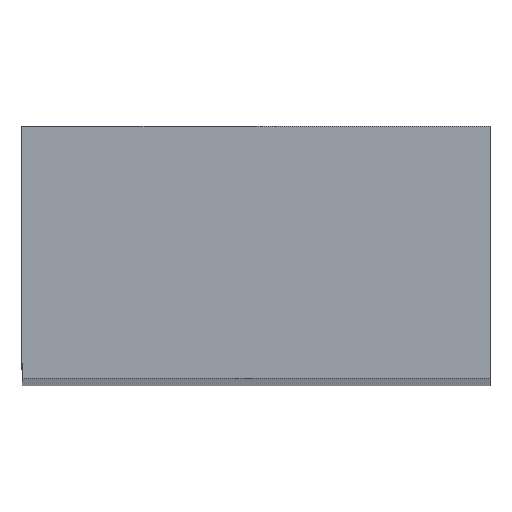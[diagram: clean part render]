
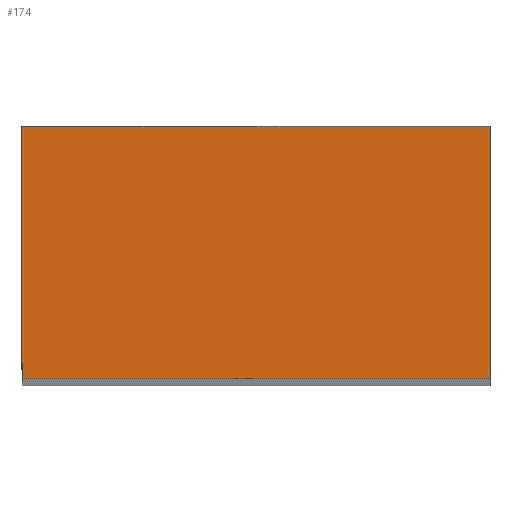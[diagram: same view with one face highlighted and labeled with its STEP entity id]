
A CAD part, top view. The second image highlights one B-rep face of the part: STEP entity #174.
In plain terms, the highlighted planar face has unit normal (0, 0, 1).
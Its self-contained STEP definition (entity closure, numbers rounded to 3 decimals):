
#7 = ORIENTED_EDGE ( 'NONE', *, *, #56, .T. ) ;
#9 = DIRECTION ( 'NONE',  ( 1., 0., 0. ) ) ;
#13 = DIRECTION ( 'NONE',  ( 0., 0., 1. ) ) ;
#23 = FACE_OUTER_BOUND ( 'NONE', #199, .T. ) ;
#24 = AXIS2_PLACEMENT_3D ( 'NONE', #197, #13, #9 ) ;
#42 = DIRECTION ( 'NONE',  ( 0., 1., 0. ) ) ;
#48 = CARTESIAN_POINT ( 'NONE',  ( -13., 7., 0. ) ) ;
#56 = EDGE_CURVE ( 'NONE', #85, #177, #73, .T. ) ;
#61 = LINE ( 'NONE', #62, #90 ) ;
#62 = CARTESIAN_POINT ( 'NONE',  ( -13., 7., 0. ) ) ;
#67 = DIRECTION ( 'NONE',  ( -1., 0., 0. ) ) ;
#73 = LINE ( 'NONE', #112, #110 ) ;
#85 = VERTEX_POINT ( 'NONE', #185 ) ;
#88 = VERTEX_POINT ( 'NONE', #186 ) ;
#90 = VECTOR ( 'NONE', #157, 1000. ) ;
#97 = DIRECTION ( 'NONE',  ( 1., 0., 0. ) ) ;
#99 = ORIENTED_EDGE ( 'NONE', *, *, #187, .T. ) ;
#107 = VECTOR ( 'NONE', #67, 1000. ) ;
#110 = VECTOR ( 'NONE', #42, 1000. ) ;
#112 = CARTESIAN_POINT ( 'NONE',  ( 13., 7., 0. ) ) ;
#119 = VERTEX_POINT ( 'NONE', #148 ) ;
#124 = CARTESIAN_POINT ( 'NONE',  ( -13., -7., 0. ) ) ;
#147 = CARTESIAN_POINT ( 'NONE',  ( 13., 7., 0. ) ) ;
#148 = CARTESIAN_POINT ( 'NONE',  ( -13., -7., 0. ) ) ;
#153 = EDGE_CURVE ( 'NONE', #177, #88, #178, .T. ) ;
#156 = PLANE ( 'NONE',  #24 ) ;
#157 = DIRECTION ( 'NONE',  ( 0., -1., 0. ) ) ;
#162 = LINE ( 'NONE', #124, #176 ) ;
#163 = ORIENTED_EDGE ( 'NONE', *, *, #153, .T. ) ;
#164 = ORIENTED_EDGE ( 'NONE', *, *, #200, .T. ) ;
#174 = ADVANCED_FACE ( 'NONE', ( #23 ), #156, .T. ) ;
#176 = VECTOR ( 'NONE', #97, 1000. ) ;
#177 = VERTEX_POINT ( 'NONE', #147 ) ;
#178 = LINE ( 'NONE', #48, #107 ) ;
#185 = CARTESIAN_POINT ( 'NONE',  ( 13., -7., 0. ) ) ;
#186 = CARTESIAN_POINT ( 'NONE',  ( -13., 7., 0. ) ) ;
#187 = EDGE_CURVE ( 'NONE', #119, #85, #162, .T. ) ;
#197 = CARTESIAN_POINT ( 'NONE',  ( 0., 0., 0. ) ) ;
#199 = EDGE_LOOP ( 'NONE', ( #164, #99, #7, #163 ) ) ;
#200 = EDGE_CURVE ( 'NONE', #88, #119, #61, .T. ) ;
